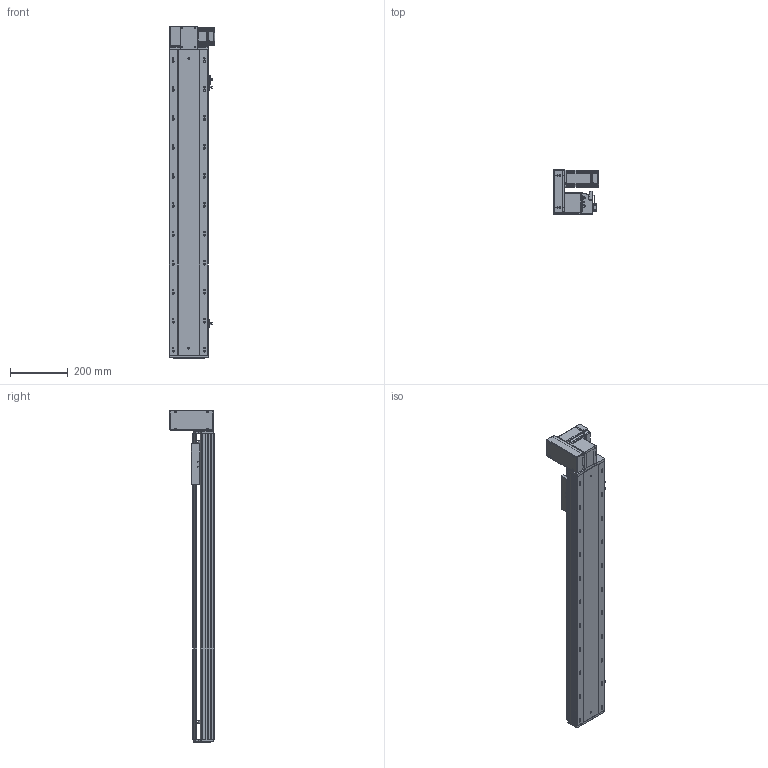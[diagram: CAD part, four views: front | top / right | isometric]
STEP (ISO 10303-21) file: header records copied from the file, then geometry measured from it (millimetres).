
FILE_DESCRIPTION (( 'STEP AP203' ), '1' );
FILE_NAME ('RY140-T-300-UL.SLDASM_800.step', '2021-03-01T07:43:33', ( '盈信电脑' ), ( '东莞市道滘镇水果街19号' ), 'SwSTEP 2.0', 'SolidWorks 2012', '' );
FILE_SCHEMA (( 'CONFIG_CONTROL_DESIGN' ));
Length unit declared in the file: millimetre
Products named in the file (18): RY140-T-300-UL.SLDASM_800; RY140-T萇儂欶; RY140-T翋肮謫裔啣; 滅袉蝶18-10; RY120-T蹟翐M4; 侂狟400W侜督萇儂; 15; RY120-T主同步轮轴承压盖; RY140-T萇儂假蚾啣; RY120-T肮祭湍揤踡輸1; RY120外置感应片(140共用）; RY120-T肮祭湍揤踡輸2; RY140-T翋肮祭謫盓傅釱; 覜茼ん672; RY140-T-300-DL倰第奻裔啣_800; RY140綴裔啣; RY140肮祭謫臏賑輸; RY140-T-300-DL倰第菁釱_800
Assembly tree (23 placements, depth 3):
  RY140-T-300-UL.SLDASM_800
    RY140-T-300-DL倰第菁釱_800
    RY140肮祭謫臏賑輸
    RY140-T-300-DL倰第奻裔啣_800
    RY140綴裔啣
    覜茼ん672  x3
    RY120外置感应片(140共用）
    RY120-T肮祭湍揤踡輸2
    RY120-T肮祭湍揤踡輸1
    RY140-T翋肮祭謫盓傅釱
    RY140-T萇儂假蚾啣
    侂狟400W侜督萇儂
      15
    RY120-T主同步轮轴承压盖
    RY120-T蹟翐M4  x4
    RY140-T萇儂欶
    滅袉蝶18-10  x2
    RY140-T翋肮謫裔啣
Bounding box: 157 x 152.5 x 1146 mm (x, y, z)
Volume: 3511571.7 mm3; surface area: 1329924.8 mm2
Topology: 22 solids, 22 shells, 2707 faces, 7469 edges, 4806 vertices
Faces by surface type: plane 1385, cylinder 1016, cone 206, bspline 100
Entity records: 86443 total; most frequent: CARTESIAN_POINT 21291, ORIENTED_EDGE 13450, DIRECTION 12685, EDGE_CURVE 6725, VERTEX_POINT 4405, LINE 4253, VECTOR 4253, AXIS2_PLACEMENT_3D 4216
